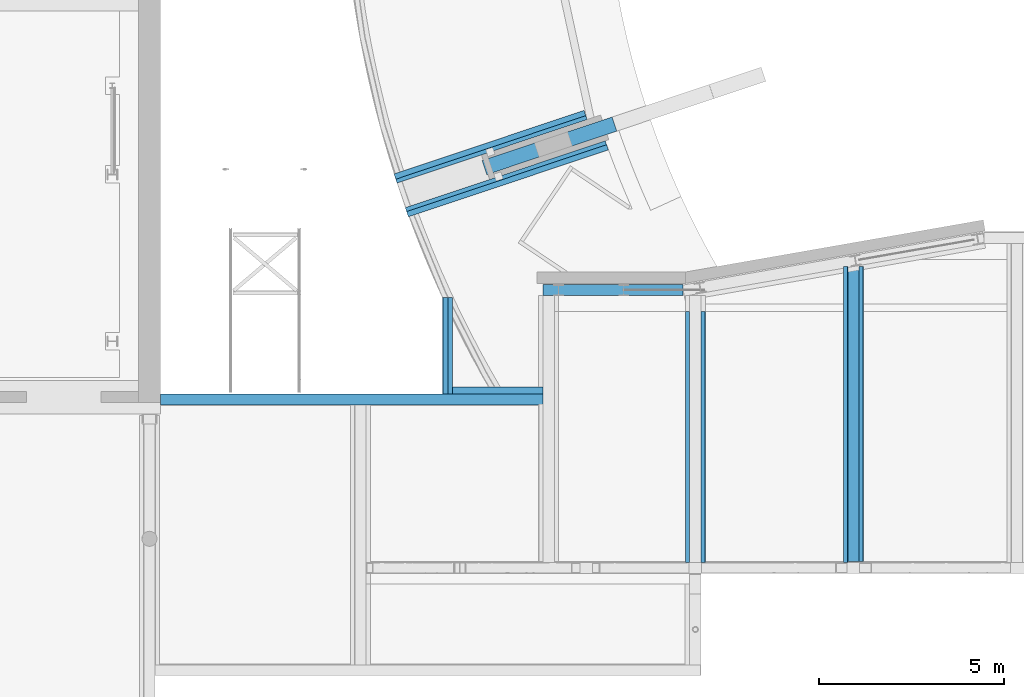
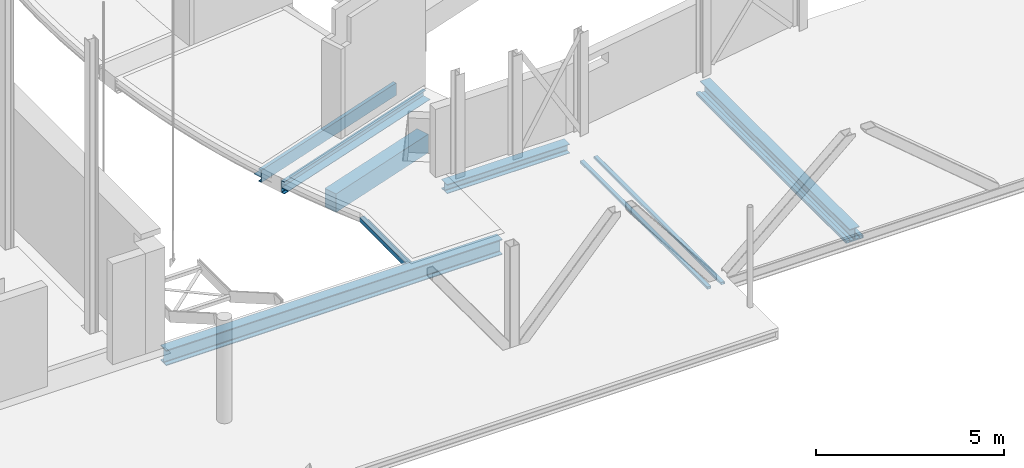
# One storey, part 15 of 37: 11 beams.
"""IFC2X3 building model written with IfcOpenShell, lengths in millimetres."""

from ifc_helpers import new_model, entity, si_unit, converted_unit, derived_unit, direction, frame, frame_2d, origin, origin_2d_with_axis, place, context, subcontext, project, spatial, polyline, circle_curve, parameter, trimmed, segment, composite_curve, rectangle, i_section, outline, extrude, source, transform, mapped, material, material_list, type_object, type_shapes, element, save


model = new_model("IFC2X3")

# Units and contexts
model_context = context("Model", 3, precision=0.01, world=origin(), true_north=direction((6.12303176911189e-17, 1.0)))
body_context = subcontext(model_context, "Body", "Model", "MODEL_VIEW")
ifc_project = project(units=[si_unit("LENGTHUNIT", "METRE", prefix="MILLI"), si_unit("AREAUNIT", "SQUARE_METRE", prefix="MILLI"), si_unit("VOLUMEUNIT", "CUBIC_METRE"), converted_unit("PLANEANGLEUNIT", "DEGREE", entity("IfcRatioMeasure", 0.0174532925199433), si_unit("PLANEANGLEUNIT", "RADIAN"), dimensions=[0, 0, 0, 0, 0, 0, 0]), si_unit("MASSUNIT", "GRAM", prefix="KILO"), derived_unit("MASSDENSITYUNIT", [(si_unit("MASSUNIT", "GRAM", prefix="KILO"), 1), (si_unit("LENGTHUNIT", "METRE"), -3)]), derived_unit("MOMENTOFINERTIAUNIT", [(si_unit("LENGTHUNIT", "METRE"), 4)]), si_unit("TIMEUNIT", "SECOND"), si_unit("FREQUENCYUNIT", "HERTZ"), si_unit("THERMODYNAMICTEMPERATUREUNIT", "DEGREE_CELSIUS"), derived_unit("THERMALTRANSMITTANCEUNIT", [(si_unit("MASSUNIT", "GRAM", prefix="KILO"), 1), (si_unit("THERMODYNAMICTEMPERATUREUNIT", "KELVIN"), -1), (si_unit("TIMEUNIT", "SECOND"), -3)]), derived_unit("VOLUMETRICFLOWRATEUNIT", [(si_unit("LENGTHUNIT", "METRE"), 3), (si_unit("TIMEUNIT", "SECOND"), -1)]), si_unit("ELECTRICCURRENTUNIT", "AMPERE"), si_unit("ELECTRICVOLTAGEUNIT", "VOLT"), si_unit("POWERUNIT", "WATT"), si_unit("FORCEUNIT", "NEWTON", prefix="KILO"), si_unit("ILLUMINANCEUNIT", "LUX"), si_unit("LUMINOUSFLUXUNIT", "LUMEN"), si_unit("LUMINOUSINTENSITYUNIT", "CANDELA"), derived_unit("USERDEFINED", [(si_unit("MASSUNIT", "GRAM", prefix="KILO"), -1), (si_unit("LENGTHUNIT", "METRE"), -2), (si_unit("TIMEUNIT", "SECOND"), 3), (si_unit("LUMINOUSFLUXUNIT", "LUMEN"), 1)]), derived_unit("LINEARVELOCITYUNIT", [(si_unit("LENGTHUNIT", "METRE"), 1), (si_unit("TIMEUNIT", "SECOND"), -1)]), si_unit("PRESSUREUNIT", "PASCAL"), derived_unit("USERDEFINED", [(si_unit("LENGTHUNIT", "METRE"), -2), (si_unit("MASSUNIT", "GRAM", prefix="KILO"), 1), (si_unit("TIMEUNIT", "SECOND"), -2)]), derived_unit("LINEARFORCEUNIT", [(si_unit("MASSUNIT", "GRAM", prefix="KILO"), 1), (si_unit("LENGTHUNIT", "METRE"), 1), (si_unit("TIMEUNIT", "SECOND"), -2), (si_unit("LENGTHUNIT", "METRE"), -1)]), derived_unit("PLANARFORCEUNIT", [(si_unit("MASSUNIT", "GRAM", prefix="KILO"), 1), (si_unit("LENGTHUNIT", "METRE"), 1), (si_unit("TIMEUNIT", "SECOND"), -2), (si_unit("LENGTHUNIT", "METRE"), -2)])], contexts=[model_context])

# Site, building, storey
site_placement = place(None, origin())
site = spatial("IfcSite", under=ifc_project, at=site_placement, Name="Theater aan de Parade", CompositionType="ELEMENT")
building_placement = place(site_placement, origin())
building = spatial("IfcBuilding", under=site, at=building_placement, Name="Theater aan de Parade", CompositionType="ELEMENT")
storey_placement = place(building_placement, frame((0.0, 0.0, 5020.0)))
storey = spatial("IfcBuildingStorey", under=building, at=storey_placement, Name="01 eerste verdieping", CompositionType="ELEMENT", Elevation=5020.0)

# Beams
ifc_material_1 = material(Name="00_PBT_MAT_beton t.p.g.")
beam_type_1 = type_object("IfcBeamType", Name="28_PBT_SF_betonbalk:400x800_bestaand", PredefinedType="NOTDEFINED")
beam_1_placement = place(storey_placement, frame((46188.5352486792, 23751.5590866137, 1000.0), z_axis=(0.0, 0.0, 1.0), x_axis=(0.948323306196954, 0.317305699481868, 0.0)))
element("IfcBeam", 1, at=beam_1_placement, inside=storey, type_object=beam_type_1, material=ifc_material_1, Name="28_PBT_SF_betonbalk:400x800_bestaand", ObjectType="28_PBT_SF_betonbalk:400x800_bestaand", context=body_context, shape_type="SweptSolid", body=[
    extrude(rectangle(XDim=600.000000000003, YDim=400.000000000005, at=frame_2d((2.8421709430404e-13, -2.04636307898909e-12), x_axis=(1.0, 0.0))), frame((0.0, 0.0, -3210.0), z_axis=(1.0, 0.0, 0.0), x_axis=(0.0, 0.0, -1.0)), (0.0, 0.0, 1.0), 3698.36802330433),
])
ifc_material_2 = material(Name="00_PBT_MAT_staal_S355")
beam_type_2 = type_object("IfcBeamType", Name="28_PBT_SF_staal_H-profiel (void):S355_HE300B", PredefinedType="NOTDEFINED")
beam_2_placement = place(storey_placement, frame((47771.4115208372, 20445.0, 0.0)))
element("IfcBeam", 2, at=beam_2_placement, inside=storey, type_object=beam_type_2, material=ifc_material_2, Name="28_PBT_SF_staal_H-profiel (void):S355_HE300B", ObjectType="28_PBT_SF_staal_H-profiel (void):S355_HE300B", context=body_context, shape_type="SweptSolid", body=[
    extrude(outline(composite_curve([segment(polyline([(131.0, -150.0), (150.0, -150.0)]), True, "CONTINUOUS"), segment(polyline([(150.0, -150.0), (150.0, 150.0)]), True, "CONTINUOUS"), segment(polyline([(150.0, 150.0), (131.0, 150.0)]), True, "CONTINUOUS"), segment(polyline([(131.0, 150.0), (131.0, 32.5000000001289)]), True, "CONTINUOUS"), segment(trimmed(circle_curve(frame_2d((104.0, 32.5000000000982), x_axis=(1.0, 0.0)), 26.9999999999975), [parameter(269.999999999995)], [parameter(0.0)], True, "PARAMETER"), False, "CONTINUOUS"), segment(polyline([(104.0, 5.50000000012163), (-104.0, 5.49999999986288)]), True, "CONTINUOUS"), segment(trimmed(circle_curve(frame_2d((-104.0, 32.4999999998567), x_axis=(0.0, -1.0)), 26.9999999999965), [parameter(269.999999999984)], [parameter(0.0)], True, "PARAMETER"), False, "CONTINUOUS"), segment(polyline([(-131.0, 32.499999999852), (-131.0, 150.0)]), True, "CONTINUOUS"), segment(polyline([(-131.0, 150.0), (-150.0, 150.0)]), True, "CONTINUOUS"), segment(polyline([(-150.0, 150.0), (-150.0, -150.0)]), True, "CONTINUOUS"), segment(polyline([(-150.0, -150.0), (-131.0, -150.0)]), True, "CONTINUOUS"), segment(polyline([(-131.0, -150.0), (-131.0, -32.5000000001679)]), True, "CONTINUOUS"), segment(trimmed(circle_curve(frame_2d((-104.0, -32.5000000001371), x_axis=(-1.0, 0.0)), 26.9999999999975), [parameter(269.999999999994)], [parameter(0.0)], True, "PARAMETER"), False, "CONTINUOUS"), segment(polyline([(-104.0, -5.50000000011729), (104.0, -5.49999999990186)]), True, "CONTINUOUS"), segment(trimmed(circle_curve(frame_2d((104.0, -32.4999999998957), x_axis=(0.0, 1.0)), 26.9999999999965), [parameter(269.999999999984)], [parameter(0.0)], True, "PARAMETER"), False, "CONTINUOUS"), segment(polyline([(131.0, -32.4999999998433), (131.0, -150.0)]), True, "CONTINUOUS")], self_intersect=False)), frame((0.0, 0.0, -310.0), z_axis=(1.0, 0.0, 0.0), x_axis=(0.0, 0.0, -1.0)), (0.0, 0.0, 1.0), 3773.05748386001),
])
ifc_material_3 = material(Name="00_PBT_MAT_Lucht")
ifc_material_list_1 = material_list([ifc_material_2, ifc_material_3])
beam_type_3 = type_object("IfcBeamType", Name="28_PBT_SF_staal_H-profiel_met_oplegstrippen (void):S355_HE500B + oplegstrip_d=15_vloer=300", PredefinedType="BEAM", material=ifc_material_list_1)
shared_shape_1 = source(origin(), body_context, "Body", "SweptSolid", [
    extrude(outline(composite_curve([segment(polyline([(222.0, -150.0), (250.0, -150.0)]), True, "CONTINUOUS"), segment(polyline([(250.0, -150.0), (250.0, 150.0)]), True, "CONTINUOUS"), segment(polyline([(250.0, 150.0), (222.0, 150.0)]), True, "CONTINUOUS"), segment(polyline([(222.0, 150.0), (222.0, 34.2500000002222)]), True, "CONTINUOUS"), segment(trimmed(circle_curve(frame_2d((195.0, 34.250000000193), x_axis=(1.0, 0.0)), 27.000000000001), [parameter(270.000000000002)], [parameter(0.0)], True, "PARAMETER"), False, "CONTINUOUS"), segment(polyline([(195.0, 7.25000000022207), (-195.0, 7.24999999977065)]), True, "CONTINUOUS"), segment(trimmed(circle_curve(frame_2d((-195.0, 34.2499999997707), x_axis=(0.0, -1.0)), 27.0000000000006), [parameter(270.000000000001)], [parameter(0.0)], True, "PARAMETER"), False, "CONTINUOUS"), segment(polyline([(-222.0, 34.2499999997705), (-222.0, 150.0)]), True, "CONTINUOUS"), segment(polyline([(-222.0, 150.0), (-250.0, 150.0)]), True, "CONTINUOUS"), segment(polyline([(-250.0, 150.0), (-250.0, -150.0)]), True, "CONTINUOUS"), segment(polyline([(-250.0, -150.0), (-222.0, -150.0)]), True, "CONTINUOUS"), segment(polyline([(-222.0, -150.0), (-222.0, -34.2500000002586)]), True, "CONTINUOUS"), segment(trimmed(circle_curve(frame_2d((-195.0, -34.2500000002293), x_axis=(-1.0, 0.0)), 27.0000000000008), [parameter(270.0)], [parameter(0.0)], True, "PARAMETER"), False, "CONTINUOUS"), segment(polyline([(-195.0, -7.25000000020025), (195.0, -7.24999999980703)]), True, "CONTINUOUS"), segment(trimmed(circle_curve(frame_2d((195.0, -34.249999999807), x_axis=(0.0, 1.0)), 27.0000000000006), [parameter(270.000000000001)], [parameter(0.0)], True, "PARAMETER"), False, "CONTINUOUS"), segment(polyline([(222.0, -34.2499999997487), (222.0, -150.0)]), True, "CONTINUOUS")], self_intersect=False)), frame((47771.4115208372, 17500.244375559, 4630.0), z_axis=(-1.0, 0.0, 0.0), x_axis=(0.0, 0.0, -1.0)), (0.0, 0.0, 1.0), 10317.5533907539),
    extrude(rectangle(XDim=15.0000000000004, YDim=320.000000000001, at=frame_2d((0.0, -8.66862137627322e-12), x_axis=(1.0, 0.0))), frame((47771.4115208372, 17667.494375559, 4632.5), z_axis=(-1.0, 0.0, 0.0), x_axis=(0.0, 0.0, -1.0)), (0.0, 0.0, 1.0), 2702.55339075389),
])
type_shapes(beam_type_3, [shared_shape_1])
beam_3_placement = place(storey_placement, frame((0.0, 0.0, -5020.0)))
element("IfcBeam", 3, at=beam_3_placement, inside=storey, type_object=beam_type_3, material=ifc_material_2, Name="28_PBT_SF_staal_H-profiel_met_oplegstrippen (void):S355_HE500B + oplegstrip_d=15_vloer=300", ObjectType="28_PBT_SF_staal_H-profiel_met_oplegstrippen (void):S355_HE500B + oplegstrip_d=15_vloer=300", context=body_context, shape_type="MappedRepresentation", body=[
    mapped(shared_shape_1, transform((0.0, 0.0, 0.0), scale=1.0)),
])
beam_type_4 = type_object("IfcBeamType", Name="28_PBT_SF_staal_UNP-profiel_met_ingelaste_strip (void):S355_UNP400 + ingelaste strip_d=15", PredefinedType="BEAM", material=ifc_material_2)
shared_shape_2 = source(origin(), body_context, "Body", "SweptSolid", [
    extrude(rectangle(XDim=15.0, YDim=246.000000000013, at=origin_2d_with_axis()), frame((-2843.12980665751, -110.2, -32.499999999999), z_axis=(1.0, 0.0, 0.0), x_axis=(0.0, 0.0, -1.0)), (0.0, 0.0, 1.0), 5686.25961331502),
    extrude(outline(composite_curve([segment(polyline([(191.0, -48.8333333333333), (200.0, -48.8333333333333)]), True, "CONTINUOUS"), segment(polyline([(200.0, -48.8333333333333), (200.0, 61.1666666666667)]), True, "CONTINUOUS"), segment(polyline([(200.0, 61.1666666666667), (-200.0, 61.1666666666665)]), True, "CONTINUOUS"), segment(polyline([(-200.0, 61.1666666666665), (-200.0, -48.8333333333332)]), True, "CONTINUOUS"), segment(polyline([(-200.0, -48.8333333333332), (-191.0, -48.8333333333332)]), True, "CONTINUOUS"), segment(trimmed(circle_curve(frame_2d((-191.0, -39.8333333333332), x_axis=(0.0, -1.0)), 8.99999999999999), [parameter(0.0)], [parameter(90.0000000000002)], True, "PARAMETER"), True, "CONTINUOUS"), segment(polyline([(-182.0, -39.8333333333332), (-182.0, 29.1666666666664)]), True, "CONTINUOUS"), segment(trimmed(circle_curve(frame_2d((-164.0, 29.1666666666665), x_axis=(-1.0, 0.0)), 18.0), [parameter(270.0)], [parameter(0.0)], True, "PARAMETER"), False, "CONTINUOUS"), segment(polyline([(-164.0, 47.1666666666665), (164.0, 47.1666666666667)]), True, "CONTINUOUS"), segment(trimmed(circle_curve(frame_2d((164.0, 29.1666666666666), x_axis=(0.0, 1.0)), 18.0000000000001), [parameter(270.0)], [parameter(0.0)], True, "PARAMETER"), False, "CONTINUOUS"), segment(polyline([(182.0, 29.1666666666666), (182.0, -39.8333333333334)]), True, "CONTINUOUS"), segment(trimmed(circle_curve(frame_2d((191.0, -39.8333333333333), x_axis=(-1.0, 0.0)), 8.99999999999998), [parameter(0.0)], [parameter(90.0000000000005)], True, "PARAMETER"), True, "CONTINUOUS")], self_intersect=False)), frame((-2843.12980665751, -34.3666666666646, 0.0), z_axis=(1.0, 0.0, 0.0), x_axis=(0.0, 0.0, -1.0)), (0.0, 0.0, 1.0), 5686.25961331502),
])
type_shapes(beam_type_4, [shared_shape_2])
beam_4_placement = place(storey_placement, frame((46759.4502589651, 23545.252427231, -355.0), z_axis=(0.0, 0.0, 1.0), x_axis=(0.948323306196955, 0.317305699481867, 0.0)))
element("IfcBeam", 4, at=beam_4_placement, inside=storey, type_object=beam_type_4, material=ifc_material_2, Name="28_PBT_SF_staal_UNP-profiel_met_ingelaste_strip (void):S355_UNP400 + ingelaste strip_d=15", ObjectType="28_PBT_SF_staal_UNP-profiel_met_ingelaste_strip (void):S355_UNP400 + ingelaste strip_d=15", context=body_context, shape_type="MappedRepresentation", body=[
    mapped(shared_shape_2, transform((0.0, 0.0, 0.0), scale=1.0)),
])
beam_type_5 = type_object("IfcBeamType", Name="28_PBT_SF_staal_UNP-profiel_met_ingelaste_strip (void):S355_UNP400 + ingelaste strip_d=15", PredefinedType="BEAM", material=ifc_material_2)
shared_shape_3 = source(origin(), body_context, "Body", "SweptSolid", [
    extrude(outline(composite_curve([segment(polyline([(-200.0, -48.833333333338), (-191.0, -48.833333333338)]), True, "CONTINUOUS"), segment(trimmed(circle_curve(frame_2d((-191.0, -39.8333333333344), x_axis=(0.0, -1.0)), 9.00000000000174), [parameter(0.0)], [parameter(89.9999999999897)], True, "PARAMETER"), True, "CONTINUOUS"), segment(polyline([(-182.0, -39.8333333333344), (-182.0, 29.1666666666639)]), True, "CONTINUOUS"), segment(trimmed(circle_curve(frame_2d((-164.0, 29.1666666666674), x_axis=(-1.0, 0.0)), 17.9999999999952), [parameter(269.999999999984)], [parameter(0.0)], True, "PARAMETER"), False, "CONTINUOUS"), segment(polyline([(-164.0, 47.1666666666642), (164.0, 47.1666666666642)]), True, "CONTINUOUS"), segment(trimmed(circle_curve(frame_2d((164.0, 29.1666666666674), x_axis=(0.0, 1.0)), 17.9999999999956), [parameter(269.999999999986)], [parameter(0.0)], True, "PARAMETER"), False, "CONTINUOUS"), segment(polyline([(182.0, 29.1666666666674), (182.0, -39.8333333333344)]), True, "CONTINUOUS"), segment(trimmed(circle_curve(frame_2d((191.0, -39.8333333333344), x_axis=(-1.0, 0.0)), 9.00000000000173), [parameter(0.0)], [parameter(89.9999999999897)], True, "PARAMETER"), True, "CONTINUOUS"), segment(polyline([(191.0, -48.8333333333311), (200.0, -48.833333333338)]), True, "CONTINUOUS"), segment(polyline([(200.0, -48.8333333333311), (200.0, 61.1666666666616)]), True, "CONTINUOUS"), segment(polyline([(200.0, 61.166666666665), (-200.0, 61.1666666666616)]), True, "CONTINUOUS"), segment(polyline([(-200.0, 61.1666666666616), (-200.0, -48.8333333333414)]), True, "CONTINUOUS")], self_intersect=False)), frame((43813.2176864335, 23390.3582897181, 4665.0), z_axis=(0.948323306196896, 0.317305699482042, 0.0), x_axis=(0.0, 0.0, 1.0)), (0.0, 0.0, 1.0), 5403.9165388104),
    extrude(rectangle(XDim=14.9999999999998, YDim=246.00000000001, at=frame_2d((0.0, -3.43192141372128e-12), x_axis=(1.0, 0.0))), frame((43789.1553375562, 23462.2728071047, 4632.5), z_axis=(0.948323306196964, 0.31730569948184, 0.0), x_axis=(0.0, 0.0, 1.0)), (0.0, 0.0, 1.0), 5403.9165388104),
])
type_shapes(beam_type_5, [shared_shape_3])
beam_5_placement = place(storey_placement, frame((0.0, 0.0, -5020.0)))
element("IfcBeam", 5, at=beam_5_placement, inside=storey, type_object=beam_type_5, material=ifc_material_2, Name="28_PBT_SF_staal_UNP-profiel_met_ingelaste_strip (void):S355_UNP400 + ingelaste strip_d=15", ObjectType="28_PBT_SF_staal_UNP-profiel_met_ingelaste_strip (void):S355_UNP400 + ingelaste strip_d=15", context=body_context, shape_type="MappedRepresentation", body=[
    mapped(shared_shape_3, transform((0.0, 0.0, 0.0), scale=1.0)),
])
ifc_material_list_2 = material_list([ifc_material_2, ifc_material_2])
ifc_material_list_3 = material_list([ifc_material_2, ifc_material_2])
beam_type_6 = type_object("IfcBeamType", Name="28_PBT_SF_staal_koker_met_ondergelaste_strip:S355_K150x150x10 + ondergelaste strip", PredefinedType="BEAM", material=ifc_material_list_3)
shared_shape_4 = source(origin(), body_context, "Body", "SweptSolid", [
    extrude(outline(composite_curve([segment(polyline([(-60.0, -75.0), (60.0, -75.0)]), True, "CONTINUOUS"), segment(trimmed(circle_curve(frame_2d((60.0, -60.0), x_axis=(0.0, 1.0)), 15.0), [parameter(180.0)], [parameter(270.0)], True, "PARAMETER"), True, "CONTINUOUS"), segment(polyline([(75.0, -60.0), (75.0, 60.0)]), True, "CONTINUOUS"), segment(trimmed(circle_curve(frame_2d((60.0, 60.0), x_axis=(0.0, 1.0)), 15.0), [parameter(270.0)], [parameter(360.0)], True, "PARAMETER"), True, "CONTINUOUS"), segment(polyline([(60.0, 75.0), (-60.0, 75.0)]), True, "CONTINUOUS"), segment(trimmed(circle_curve(frame_2d((-60.0, 60.0), x_axis=(0.0, 1.0)), 15.0), [parameter(0.0)], [parameter(90.0000000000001)], True, "PARAMETER"), True, "CONTINUOUS"), segment(polyline([(-75.0, 60.0), (-75.0, -60.0)]), True, "CONTINUOUS"), segment(trimmed(circle_curve(frame_2d((-60.0, -60.0), x_axis=(0.0, 1.0)), 15.0), [parameter(90.0)], [parameter(180.0)], True, "PARAMETER"), True, "CONTINUOUS")], self_intersect=False), holes=[composite_curve([segment(polyline([(65.0, 55.0), (65.0, -55.0)]), True, "CONTINUOUS"), segment(trimmed(circle_curve(frame_2d((55.0, -55.0), x_axis=(0.0, 1.0)), 10.0), [parameter(180.0)], [parameter(270.0)], True, "PARAMETER"), False, "CONTINUOUS"), segment(polyline([(55.0, -65.0), (-55.0, -65.0)]), True, "CONTINUOUS"), segment(trimmed(circle_curve(frame_2d((-55.0, -55.0), x_axis=(0.0, 1.0)), 10.0), [parameter(90.0)], [parameter(180.0)], True, "PARAMETER"), False, "CONTINUOUS"), segment(polyline([(-65.0, -55.0), (-65.0, 55.0)]), True, "CONTINUOUS"), segment(trimmed(circle_curve(frame_2d((-55.0, 55.0), x_axis=(0.0, 1.0)), 10.0), [parameter(4.07110999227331e-13)], [parameter(90.0000000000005)], True, "PARAMETER"), False, "CONTINUOUS"), segment(polyline([(-55.0, 65.0), (55.0, 65.0)]), True, "CONTINUOUS"), segment(trimmed(circle_curve(frame_2d((55.0, 55.0), x_axis=(0.0, 1.0)), 10.0), [parameter(270.0)], [parameter(0.0)], True, "PARAMETER"), False, "CONTINUOUS")], self_intersect=False)]), frame((45133.5568232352, 17650.244375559, 4715.0), z_axis=(0.0, 1.0, 0.0), x_axis=(0.0, 0.0, 1.0)), (0.0, 0.0, 1.0), 2590.80963539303),
    extrude(rectangle(XDim=9.99999999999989, YDim=2590.80963539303, at=frame_2d((1.13686837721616e-12, 0.0), x_axis=(0.0, 1.0))), frame((45058.5568232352, 18945.6491932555, 4635.0), z_axis=(1.0, 0.0, 0.0), x_axis=(0.0, -1.0, 0.0)), (0.0, 0.0, 1.0), 274.999999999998),
])
type_shapes(beam_type_6, [shared_shape_4])
beam_6_placement = place(storey_placement, frame((0.0, 0.0, -5020.0)))
element("IfcBeam", 6, at=beam_6_placement, inside=storey, type_object=beam_type_6, material=ifc_material_list_2, Name="28_PBT_SF_staal_koker_met_ondergelaste_strip:S355_K150x150x10 + ondergelaste strip", ObjectType="28_PBT_SF_staal_koker_met_ondergelaste_strip:S355_K150x150x10 + ondergelaste strip", context=body_context, shape_type="MappedRepresentation", body=[
    mapped(shared_shape_4, transform((0.0, 0.0, 0.0), scale=1.0)),
])
ifc_material_4 = material(Name="00_PBT_MAT_staal_S235")
beam_type_7 = type_object("IfcBeamType", Name="28_PBT_SF_staal_koker:S235_K80x120x6.3", PredefinedType="NOTDEFINED")
beam_7_placement = place(storey_placement, frame((55869.5520755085, 21082.521502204, 0.0), z_axis=(0.0, 0.0, 1.0), x_axis=(0.0, -1.0, 0.0)))
element("IfcBeam", 7, at=beam_7_placement, inside=storey, type_object=beam_type_7, material=ifc_material_4, Name="28_PBT_SF_staal_koker:S235_K80x120x6.3", ObjectType="28_PBT_SF_staal_koker:S235_K80x120x6.3", context=body_context, shape_type="SweptSolid", body=[
    extrude(outline(composite_curve([segment(polyline([(-30.5500000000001, -60.0), (30.5499999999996, -60.0)]), True, "CONTINUOUS"), segment(trimmed(circle_curve(frame_2d((30.5499999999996, -50.5500000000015), x_axis=(0.0, 1.0)), 9.45), [parameter(180.0)], [parameter(270.0)], True, "PARAMETER"), True, "CONTINUOUS"), segment(polyline([(40.0, -50.5500000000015), (40.0, 50.5500000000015)]), True, "CONTINUOUS"), segment(trimmed(circle_curve(frame_2d((30.5499999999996, 50.5500000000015), x_axis=(0.0, 1.0)), 9.45), [parameter(270.0)], [parameter(360.0)], True, "PARAMETER"), True, "CONTINUOUS"), segment(polyline([(30.5499999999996, 60.0), (-30.5500000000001, 60.0)]), True, "CONTINUOUS"), segment(trimmed(circle_curve(frame_2d((-30.5500000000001, 50.5500000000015), x_axis=(0.0, 1.0)), 9.45), [parameter(0.0)], [parameter(90.0000000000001)], True, "PARAMETER"), True, "CONTINUOUS"), segment(polyline([(-40.0, 50.5500000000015), (-40.0, -50.5500000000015)]), True, "CONTINUOUS"), segment(trimmed(circle_curve(frame_2d((-30.5500000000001, -50.5500000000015), x_axis=(0.0, 1.0)), 9.45), [parameter(90.0)], [parameter(180.0)], True, "PARAMETER"), True, "CONTINUOUS")], self_intersect=False), holes=[composite_curve([segment(polyline([(33.6999999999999, 47.3999999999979), (33.6999999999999, -47.3999999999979)]), True, "CONTINUOUS"), segment(trimmed(circle_curve(frame_2d((27.3999999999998, -47.3999999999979), x_axis=(0.0, 1.0)), 6.3), [parameter(180.0)], [parameter(270.0)], True, "PARAMETER"), False, "CONTINUOUS"), segment(polyline([(27.3999999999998, -53.6999999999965), (-27.4000000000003, -53.6999999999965)]), True, "CONTINUOUS"), segment(trimmed(circle_curve(frame_2d((-27.4000000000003, -47.3999999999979), x_axis=(0.0, 1.0)), 6.3), [parameter(90.0)], [parameter(180.0)], True, "PARAMETER"), False, "CONTINUOUS"), segment(polyline([(-33.7000000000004, -47.3999999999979), (-33.7000000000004, 47.3999999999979)]), True, "CONTINUOUS"), segment(trimmed(circle_curve(frame_2d((-27.4000000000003, 47.3999999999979), x_axis=(0.0, 1.0)), 6.3), [parameter(4.07110999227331e-13)], [parameter(90.0000000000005)], True, "PARAMETER"), False, "CONTINUOUS"), segment(polyline([(-27.4000000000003, 53.6999999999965), (27.3999999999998, 53.6999999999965)]), True, "CONTINUOUS"), segment(trimmed(circle_curve(frame_2d((27.3999999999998, 47.3999999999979), x_axis=(0.0, 1.0)), 6.3), [parameter(270.0)], [parameter(360.0)], True, "PARAMETER"), False, "CONTINUOUS")], self_intersect=False)]), frame((0.0, 60.0, -505.0), z_axis=(1.0, 0.0, 0.0), x_axis=(0.0, 0.0, 1.0)), (0.0, 0.0, 1.0), 7977.52150220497),
])
beam_8_placement = place(storey_placement, frame((56409.5520755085, 21082.521502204, 0.0), z_axis=(0.0, 0.0, 1.0), x_axis=(0.0, -1.0, 0.0)))
element("IfcBeam", 8, at=beam_8_placement, inside=storey, type_object=beam_type_7, material=ifc_material_4, Name="28_PBT_SF_staal_koker:S235_K80x120x6.3", ObjectType="28_PBT_SF_staal_koker:S235_K80x120x6.3", context=body_context, shape_type="SweptSolid", body=[
    extrude(outline(composite_curve([segment(trimmed(circle_curve(frame_2d((-50.5500000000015, -30.5500000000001), x_axis=(1.0, 0.0)), 9.45), [parameter(180.0)], [parameter(270.0)], True, "PARAMETER"), True, "CONTINUOUS"), segment(polyline([(-50.5500000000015, -40.0), (50.5500000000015, -40.0)]), True, "CONTINUOUS"), segment(trimmed(circle_curve(frame_2d((50.5500000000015, -30.5500000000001), x_axis=(1.0, 0.0)), 9.45), [parameter(270.0)], [parameter(0.0)], True, "PARAMETER"), True, "CONTINUOUS"), segment(polyline([(60.0, -30.5500000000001), (60.0, 30.5499999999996)]), True, "CONTINUOUS"), segment(trimmed(circle_curve(frame_2d((50.5500000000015, 30.5499999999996), x_axis=(1.0, 0.0)), 9.45), [parameter(3.56222124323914e-13)], [parameter(90.0000000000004)], True, "PARAMETER"), True, "CONTINUOUS"), segment(polyline([(50.5500000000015, 40.0), (-50.5500000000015, 40.0)]), True, "CONTINUOUS"), segment(trimmed(circle_curve(frame_2d((-50.5500000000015, 30.5499999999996), x_axis=(1.0, 0.0)), 9.45), [parameter(90.0000000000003)], [parameter(180.0)], True, "PARAMETER"), True, "CONTINUOUS"), segment(polyline([(-60.0, 30.5499999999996), (-60.0, -30.5500000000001)]), True, "CONTINUOUS")], self_intersect=False), holes=[composite_curve([segment(trimmed(circle_curve(frame_2d((47.3999999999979, 27.3999999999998), x_axis=(1.0, 0.0)), 6.3), [parameter(5.08888749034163e-14)], [parameter(90.0000000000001)], True, "PARAMETER"), False, "CONTINUOUS"), segment(polyline([(53.6999999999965, 27.3999999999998), (53.6999999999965, -27.4000000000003)]), True, "CONTINUOUS"), segment(trimmed(circle_curve(frame_2d((47.3999999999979, -27.4000000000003), x_axis=(1.0, 0.0)), 6.3), [parameter(269.999999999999)], [parameter(360.0)], True, "PARAMETER"), False, "CONTINUOUS"), segment(polyline([(47.3999999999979, -33.7000000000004), (-47.3999999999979, -33.7000000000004)]), True, "CONTINUOUS"), segment(trimmed(circle_curve(frame_2d((-47.3999999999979, -27.4000000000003), x_axis=(1.0, 0.0)), 6.3), [parameter(180.0)], [parameter(270.0)], True, "PARAMETER"), False, "CONTINUOUS"), segment(polyline([(-53.6999999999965, -27.4000000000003), (-53.6999999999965, 27.3999999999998)]), True, "CONTINUOUS"), segment(trimmed(circle_curve(frame_2d((-47.3999999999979, 27.3999999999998), x_axis=(1.0, 0.0)), 6.3), [parameter(89.9999999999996)], [parameter(180.0)], True, "PARAMETER"), False, "CONTINUOUS"), segment(polyline([(-47.3999999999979, 33.6999999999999), (47.3999999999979, 33.6999999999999)]), True, "CONTINUOUS")], self_intersect=False)]), frame((0.0, -60.0, -505.0), z_axis=(1.0, 0.0, 0.0), x_axis=(0.0, 1.0, 0.0)), (0.0, 0.0, 1.0), 7957.52150220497),
])
beam_9_placement = place(storey_placement, frame((51605.3051596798, 19866.34014876, 0.0), z_axis=(0.0, 0.0, 1.0), x_axis=(0.0, -1.0, 0.0)))
element("IfcBeam", 9, at=beam_9_placement, inside=storey, type_object=beam_type_7, material=ifc_material_4, Name="28_PBT_SF_staal_koker:S235_K80x120x6.3", ObjectType="28_PBT_SF_staal_koker:S235_K80x120x6.3", context=body_context, shape_type="SweptSolid", body=[
    extrude(outline(composite_curve([segment(polyline([(-30.5500000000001, -60.0), (30.5499999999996, -60.0)]), True, "CONTINUOUS"), segment(trimmed(circle_curve(frame_2d((30.5499999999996, -50.5500000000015), x_axis=(0.0, 1.0)), 9.45), [parameter(180.0)], [parameter(270.0)], True, "PARAMETER"), True, "CONTINUOUS"), segment(polyline([(40.0, -50.5500000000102), (40.0, 50.5499999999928)]), True, "CONTINUOUS"), segment(trimmed(circle_curve(frame_2d((30.5499999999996, 50.5500000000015), x_axis=(0.0, 1.0)), 9.45), [parameter(270.0)], [parameter(360.0)], True, "PARAMETER"), True, "CONTINUOUS"), segment(polyline([(30.5499999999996, 60.0), (-30.5500000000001, 60.0)]), True, "CONTINUOUS"), segment(trimmed(circle_curve(frame_2d((-30.5500000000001, 50.5500000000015), x_axis=(0.0, 1.0)), 9.45), [parameter(0.0)], [parameter(90.0000000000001)], True, "PARAMETER"), True, "CONTINUOUS"), segment(polyline([(-40.0, 50.5499999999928), (-40.0, -50.5500000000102)]), True, "CONTINUOUS"), segment(trimmed(circle_curve(frame_2d((-30.5500000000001, -50.5500000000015), x_axis=(0.0, 1.0)), 9.45), [parameter(90.0)], [parameter(180.0)], True, "PARAMETER"), True, "CONTINUOUS")], self_intersect=False), holes=[composite_curve([segment(polyline([(33.6999999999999, 47.3999999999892), (33.6999999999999, -47.4000000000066)]), True, "CONTINUOUS"), segment(trimmed(circle_curve(frame_2d((27.3999999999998, -47.3999999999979), x_axis=(0.0, 1.0)), 6.3), [parameter(180.0)], [parameter(270.0)], True, "PARAMETER"), False, "CONTINUOUS"), segment(polyline([(27.3999999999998, -53.7000000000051), (-27.4000000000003, -53.7000000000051)]), True, "CONTINUOUS"), segment(trimmed(circle_curve(frame_2d((-27.4000000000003, -47.3999999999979), x_axis=(0.0, 1.0)), 6.3), [parameter(90.0)], [parameter(180.0)], True, "PARAMETER"), False, "CONTINUOUS"), segment(polyline([(-33.7000000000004, -47.4000000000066), (-33.7000000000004, 47.3999999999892)]), True, "CONTINUOUS"), segment(trimmed(circle_curve(frame_2d((-27.4000000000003, 47.3999999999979), x_axis=(0.0, 1.0)), 6.3), [parameter(4.07110999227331e-13)], [parameter(90.0000000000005)], True, "PARAMETER"), False, "CONTINUOUS"), segment(polyline([(-27.4000000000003, 53.6999999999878), (27.3999999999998, 53.6999999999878)]), True, "CONTINUOUS"), segment(trimmed(circle_curve(frame_2d((27.3999999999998, 47.3999999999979), x_axis=(0.0, 1.0)), 6.3), [parameter(270.0)], [parameter(360.0)], True, "PARAMETER"), False, "CONTINUOUS")], self_intersect=False)]), frame((0.0, 60.0, -505.0), z_axis=(1.0, 0.0, 0.0), x_axis=(0.0, 0.0, 1.0)), (0.0, 0.0, 1.0), 6761.34014876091),
])
beam_10_placement = place(storey_placement, frame((52145.3051596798, 19866.34014876, 0.0), z_axis=(0.0, 0.0, 1.0), x_axis=(0.0, -1.0, 0.0)))
element("IfcBeam", 10, at=beam_10_placement, inside=storey, type_object=beam_type_7, material=ifc_material_4, Name="28_PBT_SF_staal_koker:S235_K80x120x6.3", ObjectType="28_PBT_SF_staal_koker:S235_K80x120x6.3", context=body_context, shape_type="SweptSolid", body=[
    extrude(outline(composite_curve([segment(trimmed(circle_curve(frame_2d((-50.5500000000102, -30.5500000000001), x_axis=(1.0, 0.0)), 9.45), [parameter(180.0)], [parameter(270.0)], True, "PARAMETER"), True, "CONTINUOUS"), segment(polyline([(-50.5500000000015, -40.0), (50.5500000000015, -40.0)]), True, "CONTINUOUS"), segment(trimmed(circle_curve(frame_2d((50.5499999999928, -30.5500000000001), x_axis=(1.0, 0.0)), 9.45), [parameter(270.0)], [parameter(0.0)], True, "PARAMETER"), True, "CONTINUOUS"), segment(polyline([(60.0, -30.5500000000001), (60.0, 30.5499999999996)]), True, "CONTINUOUS"), segment(trimmed(circle_curve(frame_2d((50.5499999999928, 30.5499999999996), x_axis=(1.0, 0.0)), 9.45), [parameter(3.56222124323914e-13)], [parameter(90.0000000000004)], True, "PARAMETER"), True, "CONTINUOUS"), segment(polyline([(50.5500000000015, 40.0), (-50.5500000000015, 40.0)]), True, "CONTINUOUS"), segment(trimmed(circle_curve(frame_2d((-50.5500000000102, 30.5499999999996), x_axis=(1.0, 0.0)), 9.45), [parameter(90.0000000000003)], [parameter(180.0)], True, "PARAMETER"), True, "CONTINUOUS"), segment(polyline([(-60.0, 30.5499999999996), (-60.0, -30.5500000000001)]), True, "CONTINUOUS")], self_intersect=False), holes=[composite_curve([segment(trimmed(circle_curve(frame_2d((47.3999999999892, 27.3999999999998), x_axis=(1.0, 0.0)), 6.3), [parameter(5.08888749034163e-14)], [parameter(90.0000000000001)], True, "PARAMETER"), False, "CONTINUOUS"), segment(polyline([(53.6999999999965, 27.3999999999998), (53.6999999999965, -27.4000000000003)]), True, "CONTINUOUS"), segment(trimmed(circle_curve(frame_2d((47.3999999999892, -27.4000000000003), x_axis=(1.0, 0.0)), 6.3), [parameter(269.999999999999)], [parameter(360.0)], True, "PARAMETER"), False, "CONTINUOUS"), segment(polyline([(47.3999999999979, -33.7000000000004), (-47.3999999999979, -33.7000000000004)]), True, "CONTINUOUS"), segment(trimmed(circle_curve(frame_2d((-47.4000000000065, -27.4000000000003), x_axis=(1.0, 0.0)), 6.3), [parameter(180.0)], [parameter(270.0)], True, "PARAMETER"), False, "CONTINUOUS"), segment(polyline([(-53.6999999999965, -27.4000000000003), (-53.6999999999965, 27.3999999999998)]), True, "CONTINUOUS"), segment(trimmed(circle_curve(frame_2d((-47.4000000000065, 27.3999999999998), x_axis=(1.0, 0.0)), 6.3), [parameter(89.9999999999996)], [parameter(180.0)], True, "PARAMETER"), False, "CONTINUOUS"), segment(polyline([(-47.3999999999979, 33.6999999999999), (47.3999999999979, 33.6999999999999)]), True, "CONTINUOUS")], self_intersect=False)]), frame((0.0, -60.0, -505.0), z_axis=(1.0, 0.0, 0.0), x_axis=(0.0, 1.0, 0.0)), (0.0, 0.0, 1.0), 6761.34014876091),
])
ifc_material_list_4 = material_list([ifc_material_2, ifc_material_3])
beam_type_8 = type_object("IfcBeamType", Name="28_PBT_SF_staal_H-profiel_met_onderplaat (void):S355_HE400B + onderplaat d=15", PredefinedType="BEAM", material=ifc_material_list_4)
shared_shape_5 = source(origin(), body_context, "Body", "SweptSolid", [
    extrude(i_section(OverallWidth=300.000000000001, OverallDepth=400.0, WebThickness=13.4999999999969, FlangeThickness=23.9999999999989, FilletRadius=26.9999999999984, at=frame_2d((-8.65441052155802e-12, 0.0), x_axis=(1.0, 0.0))), frame((56139.5520755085, 21082.521502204, 4675.0), z_axis=(0.0, -1.0, 0.0), x_axis=(-1.0, 0.0, 0.0)), (0.0, 0.0, 1.0), 7957.52150220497),
    extrude(rectangle(XDim=14.9999999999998, YDim=539.999999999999, at=frame_2d((0.0, 2.70894418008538e-13), x_axis=(0.0, 1.0))), frame((56139.5520755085, 21082.521502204, 4467.5), z_axis=(0.0, -1.0, 0.0), x_axis=(-1.0, 0.0, 0.0)), (0.0, 0.0, 1.0), 7957.52150220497),
])
type_shapes(beam_type_8, [shared_shape_5])
beam_11_placement = place(storey_placement, frame((0.0, 0.0, -5020.0)))
element("IfcBeam", 11, at=beam_11_placement, inside=storey, type_object=beam_type_8, material=ifc_material_2, Name="28_PBT_SF_staal_H-profiel_met_onderplaat (void):S355_HE400B + onderplaat d=15", ObjectType="28_PBT_SF_staal_H-profiel_met_onderplaat (void):S355_HE400B + onderplaat d=15", context=body_context, shape_type="MappedRepresentation", body=[
    mapped(shared_shape_5, transform((0.0, 0.0, 0.0), scale=1.0)),
])

save(model, "model.ifc")
